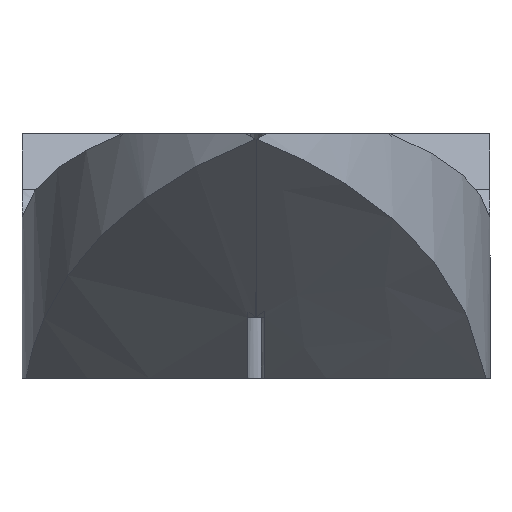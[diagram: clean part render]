
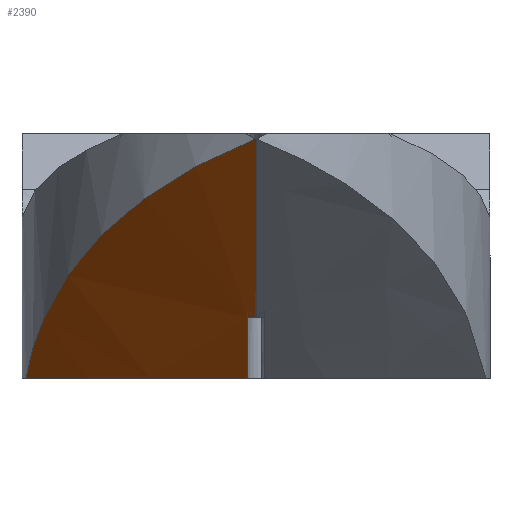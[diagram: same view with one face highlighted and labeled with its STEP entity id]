
A CAD part, left-side view. The second image highlights one B-rep face of the part: STEP entity #2390.
In plain terms, the highlighted cylindrical face has radius 75 mm (diameter 150 mm), a partial arc.
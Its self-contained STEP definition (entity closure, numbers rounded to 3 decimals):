
#248 = ORIENTED_EDGE ( 'NONE', *, *, #4708, .T. ) ;
#316 = DIRECTION ( 'NONE',  ( -0.766, 0., 0.643 ) ) ;
#337 = EDGE_LOOP ( 'NONE', ( #248, #4203, #2820, #371, #4263 ) ) ;
#346 = CARTESIAN_POINT ( 'NONE',  ( 143.25, 147.892, 3.297 ) ) ;
#364 = CARTESIAN_POINT ( 'NONE',  ( 153.924, 154.192, -4.782 ) ) ;
#371 = ORIENTED_EDGE ( 'NONE', *, *, #3074, .T. ) ;
#375 = CARTESIAN_POINT ( 'NONE',  ( 150.555, 143.361, -3.032 ) ) ;
#380 = VECTOR ( 'NONE', #316, 1000. ) ;
#410 = CARTESIAN_POINT ( 'NONE',  ( 150.555, 143.095, -3.032 ) ) ;
#427 = CARTESIAN_POINT ( 'NONE',  ( 150.555, 143.228, -3.032 ) ) ;
#457 = CARTESIAN_POINT ( 'NONE',  ( 150.555, 143.495, -3.031 ) ) ;
#479 = EDGE_CURVE ( 'NONE', #3671, #2864, #3403, .T. ) ;
#511 = CARTESIAN_POINT ( 'NONE',  ( 150.555, 143.095, -3.032 ) ) ;
#625 = CARTESIAN_POINT ( 'NONE',  ( 154.124, 147.148, -6. ) ) ;
#659 = DIRECTION ( 'NONE',  ( -0.766, 0., 0.643 ) ) ;
#750 = CARTESIAN_POINT ( 'NONE',  ( 144.142, 148.832, 2.634 ) ) ;
#782 = CARTESIAN_POINT ( 'NONE',  ( 154.568, 150.79, -6. ) ) ;
#828 = CARTESIAN_POINT ( 'NONE',  ( 154.093, 143.495, -6. ) ) ;
#844 = EDGE_CURVE ( 'NONE', #4804, #2128, #3165, .T. ) ;
#862 = CARTESIAN_POINT ( 'NONE',  ( 219.349, 143.095, 37.149 ) ) ;
#923 = CARTESIAN_POINT ( 'NONE',  ( 155.425, 154.402, -6. ) ) ;
#1138 = CARTESIAN_POINT ( 'NONE',  ( 145.396, 149.986, 1.708 ) ) ;
#1149 = CARTESIAN_POINT ( 'NONE',  ( 140.092, 143.095, 5.747 ) ) ;
#1211 = VECTOR ( 'NONE', #2386, 1000. ) ;
#1351 = AXIS2_PLACEMENT_3D ( 'NONE', #862, #659, #4603 ) ;
#1514 = CARTESIAN_POINT ( 'NONE',  ( 147.397, 151.449, 0.225 ) ) ;
#1805 = EDGE_CURVE ( 'NONE', #4025, #4804, #1936, .T. ) ;
#1820 = FACE_OUTER_BOUND ( 'NONE', #337, .T. ) ;
#1916 = CARTESIAN_POINT ( 'NONE',  ( 149.161, 152.442, -1.1 ) ) ;
#1936 =( BOUNDED_CURVE ( )  B_SPLINE_CURVE ( 3, ( #457, #375, #427, #410 ),
 .UNSPECIFIED., .F., .T. ) 
 B_SPLINE_CURVE_WITH_KNOTS ( ( 4, 4 ),
 ( 3.136, 3.142 ),
 .UNSPECIFIED. ) 
 CURVE ( )  GEOMETRIC_REPRESENTATION_ITEM ( )  RATIONAL_B_SPLINE_CURVE ( ( 1., 1., 1., 1. ) ) 
 REPRESENTATION_ITEM ( '' )  );
#2128 = VERTEX_POINT ( 'NONE', #1149 ) ;
#2289 = CARTESIAN_POINT ( 'NONE',  ( 140.092, 143.095, 5.747 ) ) ;
#2306 = CARTESIAN_POINT ( 'NONE',  ( 150.247, 152.952, -1.925 ) ) ;
#2386 = DIRECTION ( 'NONE',  ( -0.766, 0., 0.643 ) ) ;
#2390 = ADVANCED_FACE ( 'NONE', ( #1820 ), #3432, .T. ) ;
#2551 = CARTESIAN_POINT ( 'NONE',  ( 155.425, 154.402, -6. ) ) ;
#2677 = CARTESIAN_POINT ( 'NONE',  ( 141.843, 146.24, 4.348 ) ) ;
#2697 = CARTESIAN_POINT ( 'NONE',  ( 152.439, 153.812, -3.612 ) ) ;
#2820 = ORIENTED_EDGE ( 'NONE', *, *, #844, .T. ) ;
#2864 = VERTEX_POINT ( 'NONE', #2551 ) ;
#3074 = EDGE_CURVE ( 'NONE', #2128, #2864, #4488, .T. ) ;
#3082 = CARTESIAN_POINT ( 'NONE',  ( 143.541, 148.212, 3.08 ) ) ;
#3097 = CARTESIAN_POINT ( 'NONE',  ( 155.425, 154.402, -6. ) ) ;
#3165 = LINE ( 'NONE', #3643, #1211 ) ;
#3403 =( BOUNDED_CURVE ( )  B_SPLINE_CURVE ( 3, ( #828, #625, #782, #923 ),
 .UNSPECIFIED., .F., .F. ) 
 B_SPLINE_CURVE_WITH_KNOTS ( ( 4, 4 ),
 ( 0.005, 0.151 ),
 .UNSPECIFIED. ) 
 CURVE ( )  GEOMETRIC_REPRESENTATION_ITEM ( )  RATIONAL_B_SPLINE_CURVE ( ( 1., 0.998, 0.998, 1. ) ) 
 REPRESENTATION_ITEM ( '' )  );
#3432 = CYLINDRICAL_SURFACE ( 'NONE', #1351, 75. ) ;
#3488 = CARTESIAN_POINT ( 'NONE',  ( 144.452, 149.131, 2.405 ) ) ;
#3570 = CARTESIAN_POINT ( 'NONE',  ( 154.093, 143.495, -6. ) ) ;
#3643 = CARTESIAN_POINT ( 'NONE',  ( 151.709, 143.095, -4. ) ) ;
#3671 = VERTEX_POINT ( 'NONE', #3570 ) ;
#3894 = CARTESIAN_POINT ( 'NONE',  ( 146.049, 150.505, 1.226 ) ) ;
#4025 = VERTEX_POINT ( 'NONE', #4978 ) ;
#4203 = ORIENTED_EDGE ( 'NONE', *, *, #1805, .T. ) ;
#4263 = ORIENTED_EDGE ( 'NONE', *, *, #479, .F. ) ;
#4292 = CARTESIAN_POINT ( 'NONE',  ( 148.091, 151.874, -0.293 ) ) ;
#4488 = B_SPLINE_CURVE_WITH_KNOTS ( 'NONE', 3,
 ( #2289, #4673, #2677, #346, #3082, #750, #3488, #1138, #3894, #1514, #4292, #1916, #4687, #2306, #5077, #2697, #364, #3097 ),
 .UNSPECIFIED., .F., .F.,
 ( 4, 2, 2, 2, 2, 2, 2, 2, 4 ),
 ( 0., 0.006, 0.007, 0.009, 0.012, 0.014, 0.016, 0.017, 0.023 ),
 .UNSPECIFIED. ) ;
#4578 = LINE ( 'NONE', #5025, #380 ) ;
#4603 = DIRECTION ( 'NONE',  ( 0.643, 0., 0.766 ) ) ;
#4673 = CARTESIAN_POINT ( 'NONE',  ( 140.873, 144.758, 5.092 ) ) ;
#4687 = CARTESIAN_POINT ( 'NONE',  ( 149.523, 152.621, -1.373 ) ) ;
#4708 = EDGE_CURVE ( 'NONE', #3671, #4025, #4578, .T. ) ;
#4804 = VERTEX_POINT ( 'NONE', #511 ) ;
#4978 = CARTESIAN_POINT ( 'NONE',  ( 150.555, 143.495, -3.031 ) ) ;
#5025 = CARTESIAN_POINT ( 'NONE',  ( 151.709, 143.495, -4. ) ) ;
#5077 = CARTESIAN_POINT ( 'NONE',  ( 150.612, 153.105, -2.204 ) ) ;
